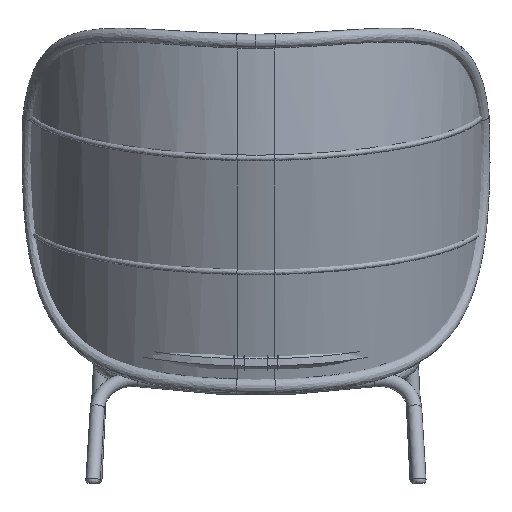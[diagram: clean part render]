
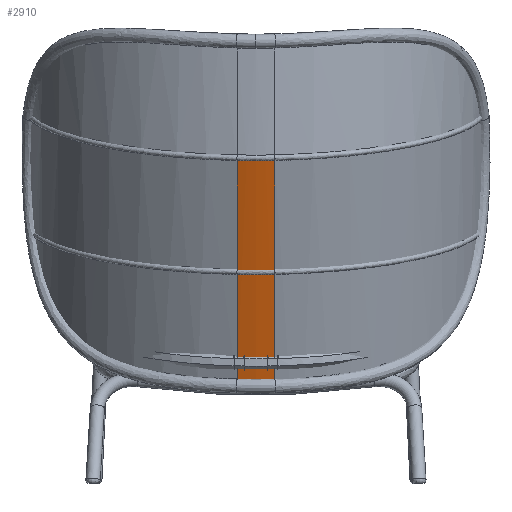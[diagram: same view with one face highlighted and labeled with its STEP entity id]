
A CAD part, front view. The second image highlights one B-rep face of the part: STEP entity #2910.
In plain terms, the highlighted cylindrical face has radius 400 mm (diameter 800 mm), a partial arc.
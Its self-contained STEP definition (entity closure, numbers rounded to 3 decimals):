
#348=FACE_OUTER_BOUND('',#546,.T.);
#546=EDGE_LOOP('',(#1956,#1957,#1958,#1959,#1960));
#746=B_SPLINE_CURVE_WITH_KNOTS('',3,(#4343,#4344,#4345,#4346,#4347,#4348,
#4349,#4350,#4351,#4352,#4353,#4354,#4355,#4356,#4357,#4358,#4359,#4360,
#4361,#4362,#4363,#4364,#4365,#4366,#4367,#4368,#4369,#4370,#4371,#4372,
#4373,#4374,#4375,#4376,#4377,#4378,#4379,#4380,#4381,#4382),
 .UNSPECIFIED.,.F.,.F.,(4,3,3,3,3,3,3,3,3,3,3,3,3,4),(4.698,
5.01,5.318,5.623,5.926,6.226,
6.525,6.823,7.047,7.345,7.644,
7.944,8.246,8.424),.UNSPECIFIED.);
#747=B_SPLINE_CURVE_WITH_KNOTS('',3,(#4387,#4388,#4389,#4390,#4391,#4392,
#4393,#4394,#4395,#4396,#4397,#4398,#4399,#4400,#4401,#4402,#4403,#4404,
#4405,#4406,#4407,#4408,#4409,#4410,#4411,#4412,#4413,#4414,#4415,#4416,
#4417,#4418,#4419,#4420,#4421,#4422,#4423,#4424,#4425,#4426),
 .UNSPECIFIED.,.F.,.F.,(4,3,3,3,3,3,3,3,3,3,3,3,3,4),(0.972,
1.274,1.574,1.873,2.172,2.349,
2.647,2.946,3.246,3.547,3.852,
4.159,4.471,4.698),.UNSPECIFIED.);
#905=LINE('',#3988,#1019);
#906=LINE('',#4386,#1020);
#1019=VECTOR('',#3376,0.365);
#1020=VECTOR('',#3381,0.365);
#1134=ELLIPSE('',#3125,403.004,400.);
#1197=VERTEX_POINT('',#3985);
#1198=VERTEX_POINT('',#3987);
#1199=VERTEX_POINT('',#4342);
#1200=VERTEX_POINT('',#4383);
#1201=VERTEX_POINT('',#4385);
#1485=EDGE_CURVE('',#1198,#1197,#905,.T.);
#1487=EDGE_CURVE('',#1199,#1198,#746,.T.);
#1488=EDGE_CURVE('',#1197,#1200,#1134,.T.);
#1489=EDGE_CURVE('',#1201,#1200,#906,.T.);
#1490=EDGE_CURVE('',#1201,#1199,#747,.T.);
#1956=ORIENTED_EDGE('',*,*,#1487,.T.);
#1957=ORIENTED_EDGE('',*,*,#1485,.T.);
#1958=ORIENTED_EDGE('',*,*,#1488,.T.);
#1959=ORIENTED_EDGE('',*,*,#1489,.F.);
#1960=ORIENTED_EDGE('',*,*,#1490,.T.);
#2884=CYLINDRICAL_SURFACE('',#3124,400.);
#2910=ADVANCED_FACE('',(#348),#2884,.F.);
#3124=AXIS2_PLACEMENT_3D('',#4341,#3377,#3378);
#3125=AXIS2_PLACEMENT_3D('',#4384,#3379,#3380);
#3376=DIRECTION('',(0.,-0.336,0.942));
#3377=DIRECTION('center_axis',(0.,-0.336,0.942));
#3378=DIRECTION('ref_axis',(0.1,-0.937,-0.335));
#3379=DIRECTION('center_axis',(0.,-0.219,0.976));
#3380=DIRECTION('ref_axis',(0.,-0.976,-0.219));
#3381=DIRECTION('',(0.,-0.336,0.942));
#3985=CARTESIAN_POINT('',(-39.95,-835.033,691.467));
#3987=CARTESIAN_POINT('',(-39.95,-662.274,207.806));
#3988=CARTESIAN_POINT('',(-39.95,-566.473,-60.399));
#4341=CARTESIAN_POINT('Origin',(0.,-191.666,
73.479));
#4342=CARTESIAN_POINT('',(0.,-664.208,207.276));
#4343=CARTESIAN_POINT('Ctrl Pts',(0.,-664.208,
207.276));
#4344=CARTESIAN_POINT('Ctrl Pts',(-1.04,-664.208,207.276));
#4345=CARTESIAN_POINT('Ctrl Pts',(-2.094,-664.204,207.277));
#4346=CARTESIAN_POINT('Ctrl Pts',(-3.159,-664.196,207.279));
#4347=CARTESIAN_POINT('Ctrl Pts',(-4.212,-664.188,207.281));
#4348=CARTESIAN_POINT('Ctrl Pts',(-5.276,-664.176,207.284));
#4349=CARTESIAN_POINT('Ctrl Pts',(-6.349,-664.159,207.289));
#4350=CARTESIAN_POINT('Ctrl Pts',(-7.412,-664.143,207.293));
#4351=CARTESIAN_POINT('Ctrl Pts',(-8.485,-664.122,207.299));
#4352=CARTESIAN_POINT('Ctrl Pts',(-9.565,-664.097,207.305));
#4353=CARTESIAN_POINT('Ctrl Pts',(-10.637,-664.072,207.312));
#4354=CARTESIAN_POINT('Ctrl Pts',(-11.716,-664.043,207.32));
#4355=CARTESIAN_POINT('Ctrl Pts',(-12.801,-664.01,207.329));
#4356=CARTESIAN_POINT('Ctrl Pts',(-13.877,-663.976,207.338));
#4357=CARTESIAN_POINT('Ctrl Pts',(-14.959,-663.938,207.349));
#4358=CARTESIAN_POINT('Ctrl Pts',(-16.045,-663.896,207.36));
#4359=CARTESIAN_POINT('Ctrl Pts',(-17.127,-663.854,207.372));
#4360=CARTESIAN_POINT('Ctrl Pts',(-18.213,-663.808,207.384));
#4361=CARTESIAN_POINT('Ctrl Pts',(-19.302,-663.757,207.398));
#4362=CARTESIAN_POINT('Ctrl Pts',(-20.388,-663.706,207.412));
#4363=CARTESIAN_POINT('Ctrl Pts',(-21.476,-663.651,207.427));
#4364=CARTESIAN_POINT('Ctrl Pts',(-22.565,-663.592,207.444));
#4365=CARTESIAN_POINT('Ctrl Pts',(-23.385,-663.547,207.456));
#4366=CARTESIAN_POINT('Ctrl Pts',(-24.205,-663.499,207.469));
#4367=CARTESIAN_POINT('Ctrl Pts',(-25.024,-663.45,207.482));
#4368=CARTESIAN_POINT('Ctrl Pts',(-26.114,-663.384,207.5));
#4369=CARTESIAN_POINT('Ctrl Pts',(-27.203,-663.313,207.52));
#4370=CARTESIAN_POINT('Ctrl Pts',(-28.291,-663.239,207.54));
#4371=CARTESIAN_POINT('Ctrl Pts',(-29.382,-663.164,207.561));
#4372=CARTESIAN_POINT('Ctrl Pts',(-30.47,-663.085,207.582));
#4373=CARTESIAN_POINT('Ctrl Pts',(-31.556,-663.002,207.605));
#4374=CARTESIAN_POINT('Ctrl Pts',(-32.644,-662.919,207.628));
#4375=CARTESIAN_POINT('Ctrl Pts',(-33.73,-662.831,207.652));
#4376=CARTESIAN_POINT('Ctrl Pts',(-34.81,-662.74,207.677));
#4377=CARTESIAN_POINT('Ctrl Pts',(-35.897,-662.648,207.703));
#4378=CARTESIAN_POINT('Ctrl Pts',(-36.979,-662.552,207.729));
#4379=CARTESIAN_POINT('Ctrl Pts',(-38.055,-662.453,207.756));
#4380=CARTESIAN_POINT('Ctrl Pts',(-38.689,-662.395,207.773));
#4381=CARTESIAN_POINT('Ctrl Pts',(-39.321,-662.335,207.789));
#4382=CARTESIAN_POINT('Ctrl Pts',(-39.95,-662.274,207.806));
#4383=CARTESIAN_POINT('',(39.95,-835.033,691.467));
#4384=CARTESIAN_POINT('Origin',(0.,-443.788,
779.324));
#4385=CARTESIAN_POINT('',(39.95,-662.274,207.806));
#4386=CARTESIAN_POINT('',(39.95,-566.473,-60.399));
#4387=CARTESIAN_POINT('Ctrl Pts',(39.95,-662.274,207.806));
#4388=CARTESIAN_POINT('Ctrl Pts',(38.882,-662.377,207.777));
#4389=CARTESIAN_POINT('Ctrl Pts',(37.805,-662.478,207.75));
#4390=CARTESIAN_POINT('Ctrl Pts',(36.723,-662.574,207.723));
#4391=CARTESIAN_POINT('Ctrl Pts',(35.649,-662.67,207.697));
#4392=CARTESIAN_POINT('Ctrl Pts',(34.57,-662.762,207.671));
#4393=CARTESIAN_POINT('Ctrl Pts',(33.485,-662.85,207.647));
#4394=CARTESIAN_POINT('Ctrl Pts',(32.405,-662.937,207.623));
#4395=CARTESIAN_POINT('Ctrl Pts',(31.32,-663.021,207.6));
#4396=CARTESIAN_POINT('Ctrl Pts',(30.231,-663.101,207.578));
#4397=CARTESIAN_POINT('Ctrl Pts',(29.146,-663.181,207.556));
#4398=CARTESIAN_POINT('Ctrl Pts',(28.059,-663.256,207.535));
#4399=CARTESIAN_POINT('Ctrl Pts',(26.969,-663.327,207.516));
#4400=CARTESIAN_POINT('Ctrl Pts',(26.321,-663.37,207.504));
#4401=CARTESIAN_POINT('Ctrl Pts',(25.673,-663.41,207.493));
#4402=CARTESIAN_POINT('Ctrl Pts',(25.024,-663.45,207.482));
#4403=CARTESIAN_POINT('Ctrl Pts',(23.934,-663.516,207.464));
#4404=CARTESIAN_POINT('Ctrl Pts',(22.844,-663.578,207.447));
#4405=CARTESIAN_POINT('Ctrl Pts',(21.755,-663.635,207.432));
#4406=CARTESIAN_POINT('Ctrl Pts',(20.664,-663.692,207.416));
#4407=CARTESIAN_POINT('Ctrl Pts',(19.574,-663.746,207.401));
#4408=CARTESIAN_POINT('Ctrl Pts',(18.488,-663.794,207.388));
#4409=CARTESIAN_POINT('Ctrl Pts',(17.397,-663.843,207.375));
#4410=CARTESIAN_POINT('Ctrl Pts',(16.309,-663.887,207.363));
#4411=CARTESIAN_POINT('Ctrl Pts',(15.226,-663.927,207.352));
#4412=CARTESIAN_POINT('Ctrl Pts',(14.137,-663.967,207.341));
#4413=CARTESIAN_POINT('Ctrl Pts',(13.053,-664.003,207.331));
#4414=CARTESIAN_POINT('Ctrl Pts',(11.975,-664.034,207.323));
#4415=CARTESIAN_POINT('Ctrl Pts',(10.885,-664.066,207.314));
#4416=CARTESIAN_POINT('Ctrl Pts',(9.802,-664.093,207.307));
#4417=CARTESIAN_POINT('Ctrl Pts',(8.726,-664.116,207.3));
#4418=CARTESIAN_POINT('Ctrl Pts',(7.642,-664.139,207.294));
#4419=CARTESIAN_POINT('Ctrl Pts',(6.567,-664.157,207.289));
#4420=CARTESIAN_POINT('Ctrl Pts',(5.501,-664.171,207.285));
#4421=CARTESIAN_POINT('Ctrl Pts',(4.418,-664.186,207.282));
#4422=CARTESIAN_POINT('Ctrl Pts',(3.346,-664.196,207.279));
#4423=CARTESIAN_POINT('Ctrl Pts',(2.285,-664.202,207.277));
#4424=CARTESIAN_POINT('Ctrl Pts',(1.517,-664.206,207.276));
#4425=CARTESIAN_POINT('Ctrl Pts',(0.755,-664.208,207.276));
#4426=CARTESIAN_POINT('Ctrl Pts',(0.,-664.208,
207.276));
